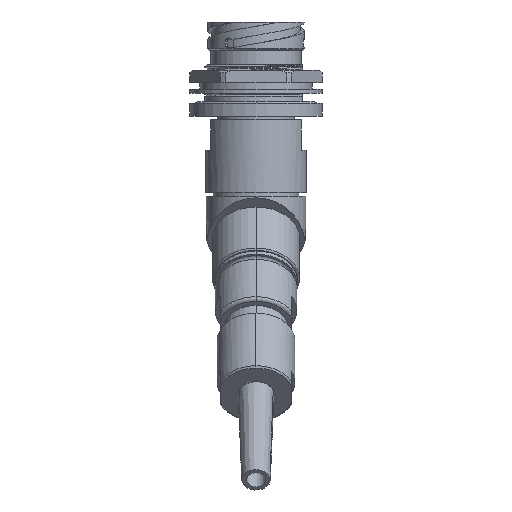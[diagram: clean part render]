
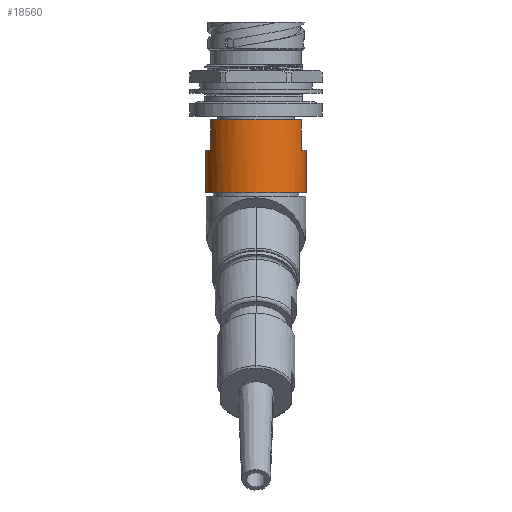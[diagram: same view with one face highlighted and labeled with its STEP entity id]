
A CAD part, front view. The second image highlights one B-rep face of the part: STEP entity #18560.
In plain terms, the highlighted cylindrical face has radius 15.684 mm (diameter 31.369 mm), a partial arc.
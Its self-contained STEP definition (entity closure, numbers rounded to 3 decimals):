
#52 = CARTESIAN_POINT ( 'NONE',  ( 0., 0., -39.853 ) ) ;
#426 = DIRECTION ( 'NONE',  ( 1., 0., 0. ) ) ;
#1483 = AXIS2_PLACEMENT_3D ( 'NONE', #8325, #4947, #426 ) ;
#1937 = DIRECTION ( 'NONE',  ( 0., 0., -1. ) ) ;
#2009 = CARTESIAN_POINT ( 'NONE',  ( 14.033, -7.005, -39.853 ) ) ;
#2290 = VERTEX_POINT ( 'NONE', #22230 ) ;
#2513 = CARTESIAN_POINT ( 'NONE',  ( -15.684, 0., -53.01 ) ) ;
#2958 = CARTESIAN_POINT ( 'NONE',  ( 15.684, 0., -53.01 ) ) ;
#3475 = DIRECTION ( 'NONE',  ( 0., 1., 0. ) ) ;
#3479 = CARTESIAN_POINT ( 'NONE',  ( -14.034, -7.005, -30.328 ) ) ;
#3513 = CARTESIAN_POINT ( 'NONE',  ( 14.033, -7.005, -30.328 ) ) ;
#3768 = VECTOR ( 'NONE', #1937, 1000. ) ;
#3805 = DIRECTION ( 'NONE',  ( 1., 0., 0. ) ) ;
#4530 = DIRECTION ( 'NONE',  ( 1., 0., 0. ) ) ;
#4947 = DIRECTION ( 'NONE',  ( 0., 0., -1. ) ) ;
#5021 = VERTEX_POINT ( 'NONE', #3479 ) ;
#6209 = VERTEX_POINT ( 'NONE', #14021 ) ;
#6290 = CIRCLE ( 'NONE', #18851, 15.685 ) ;
#6454 = LINE ( 'NONE', #13736, #7583 ) ;
#6659 = CARTESIAN_POINT ( 'NONE',  ( -14.033, -7.005, -39.853 ) ) ;
#6937 = AXIS2_PLACEMENT_3D ( 'NONE', #14867, #9376, #4530 ) ;
#7023 = DIRECTION ( 'NONE',  ( 0., 0., 1. ) ) ;
#7129 = DIRECTION ( 'NONE',  ( 1., 0., 0. ) ) ;
#7280 = AXIS2_PLACEMENT_3D ( 'NONE', #10557, #17398, #3805 ) ;
#7583 = VECTOR ( 'NONE', #9834, 1000. ) ;
#7890 = LINE ( 'NONE', #13396, #10990 ) ;
#8325 = CARTESIAN_POINT ( 'NONE',  ( 0., 0., -53.01 ) ) ;
#9056 = DIRECTION ( 'NONE',  ( 0., 0., -1. ) ) ;
#9376 = DIRECTION ( 'NONE',  ( 0., 0., -1. ) ) ;
#9595 = FACE_OUTER_BOUND ( 'NONE', #15683, .T. ) ;
#9692 = VERTEX_POINT ( 'NONE', #2513 ) ;
#9823 = CIRCLE ( 'NONE', #7280, 15.685 ) ;
#9834 = DIRECTION ( 'NONE',  ( 0., 0., -1. ) ) ;
#9908 = CARTESIAN_POINT ( 'NONE',  ( 0., 0., -39.853 ) ) ;
#10557 = CARTESIAN_POINT ( 'NONE',  ( 0., 0., -30.328 ) ) ;
#10563 = CARTESIAN_POINT ( 'NONE',  ( 15.685, 0., -39.853 ) ) ;
#10990 = VECTOR ( 'NONE', #21598, 1000. ) ;
#11074 = VERTEX_POINT ( 'NONE', #6659 ) ;
#11245 = AXIS2_PLACEMENT_3D ( 'NONE', #9908, #22139, #3475 ) ;
#11290 = VECTOR ( 'NONE', #9056, 1000. ) ;
#11632 = EDGE_CURVE ( 'NONE', #14865, #9692, #17628, .T. ) ;
#12249 = EDGE_CURVE ( 'NONE', #19279, #14865, #6454, .T. ) ;
#12877 = LINE ( 'NONE', #14102, #11290 ) ;
#13071 = CYLINDRICAL_SURFACE ( 'NONE', #6937, 15.685 ) ;
#13396 = CARTESIAN_POINT ( 'NONE',  ( -14.033, -7.005, -30.328 ) ) ;
#13736 = CARTESIAN_POINT ( 'NONE',  ( 15.684, 0., -30.328 ) ) ;
#13740 = LINE ( 'NONE', #3513, #3768 ) ;
#14021 = CARTESIAN_POINT ( 'NONE',  ( 14.033, -7.005, -30.328 ) ) ;
#14102 = CARTESIAN_POINT ( 'NONE',  ( -15.685, 0., -30.328 ) ) ;
#14199 = EDGE_CURVE ( 'NONE', #2290, #9692, #12877, .T. ) ;
#14865 = VERTEX_POINT ( 'NONE', #2958 ) ;
#14867 = CARTESIAN_POINT ( 'NONE',  ( 0., 0., -30.328 ) ) ;
#15415 = ORIENTED_EDGE ( 'NONE', *, *, #18974, .F. ) ;
#15537 = ORIENTED_EDGE ( 'NONE', *, *, #21575, .F. ) ;
#15683 = EDGE_LOOP ( 'NONE', ( #15415, #16462, #19399, #22051, #17450, #22255, #18212, #15537 ) ) ;
#15908 = VERTEX_POINT ( 'NONE', #2009 ) ;
#16462 = ORIENTED_EDGE ( 'NONE', *, *, #14199, .T. ) ;
#16494 = EDGE_CURVE ( 'NONE', #15908, #19279, #6290, .T. ) ;
#17398 = DIRECTION ( 'NONE',  ( 0., 0., -1. ) ) ;
#17450 = ORIENTED_EDGE ( 'NONE', *, *, #16494, .F. ) ;
#17628 = CIRCLE ( 'NONE', #1483, 15.684 ) ;
#18212 = ORIENTED_EDGE ( 'NONE', *, *, #18779, .T. ) ;
#18560 = ADVANCED_FACE ( 'NONE', ( #9595 ), #13071, .T. ) ;
#18779 = EDGE_CURVE ( 'NONE', #6209, #5021, #9823, .T. ) ;
#18851 = AXIS2_PLACEMENT_3D ( 'NONE', #52, #7023, #7129 ) ;
#18974 = EDGE_CURVE ( 'NONE', #2290, #11074, #20919, .T. ) ;
#19279 = VERTEX_POINT ( 'NONE', #10563 ) ;
#19399 = ORIENTED_EDGE ( 'NONE', *, *, #11632, .F. ) ;
#20919 = CIRCLE ( 'NONE', #11245, 15.685 ) ;
#21240 = EDGE_CURVE ( 'NONE', #6209, #15908, #13740, .T. ) ;
#21575 = EDGE_CURVE ( 'NONE', #11074, #5021, #7890, .T. ) ;
#21598 = DIRECTION ( 'NONE',  ( 0., 0., 1. ) ) ;
#22051 = ORIENTED_EDGE ( 'NONE', *, *, #12249, .F. ) ;
#22139 = DIRECTION ( 'NONE',  ( 0., 0., 1. ) ) ;
#22230 = CARTESIAN_POINT ( 'NONE',  ( -15.685, 0., -39.853 ) ) ;
#22255 = ORIENTED_EDGE ( 'NONE', *, *, #21240, .F. ) ;
